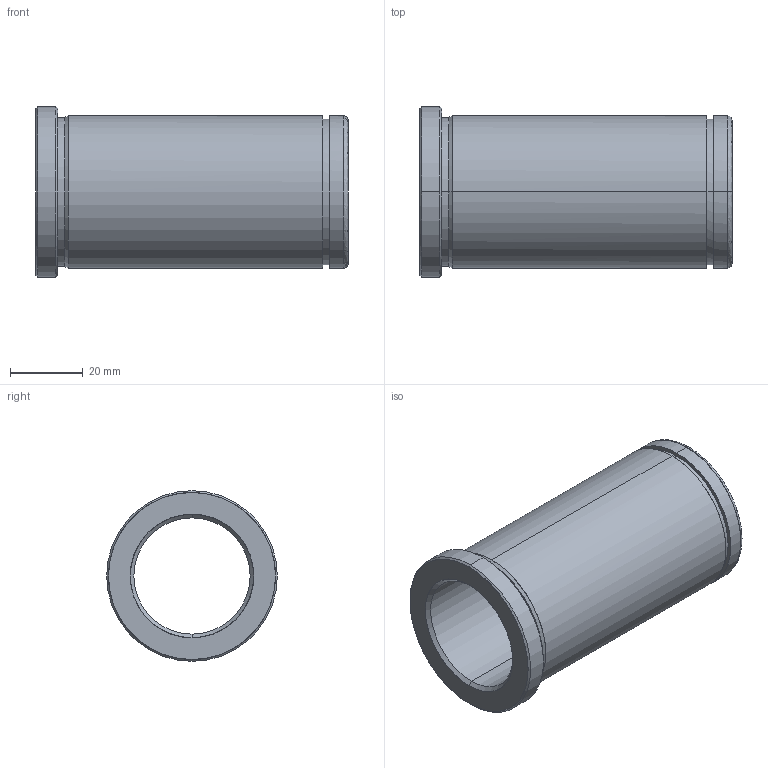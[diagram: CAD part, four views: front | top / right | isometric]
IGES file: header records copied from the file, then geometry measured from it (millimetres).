
Start section: START RECORD GO HERE.
Global section: file name: 553-32X86.igs; native system: DASSAULT SYSTEMES CATIA V5 R20 - www.3ds.com; preprocessor: CATIA Version 5 Release 20 ; author: Utente; organization: NB04-ASUS; date: 20210526.204352; units: millimetre
Bounding box: 86 x 47 x 47 mm (x, y, z)
Surface area: 21951.3 mm2 (no closed solid volume)
Topology: 0 solids, 0 shells, 29 faces, 184 edges, 184 vertices
Faces by surface type: revolution 24, plane 5
